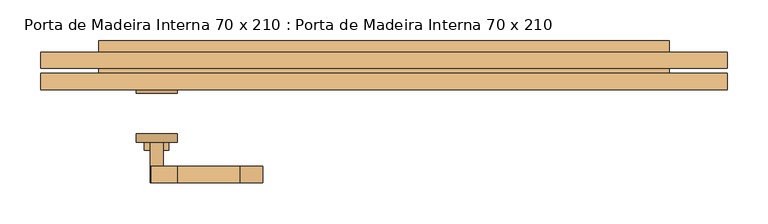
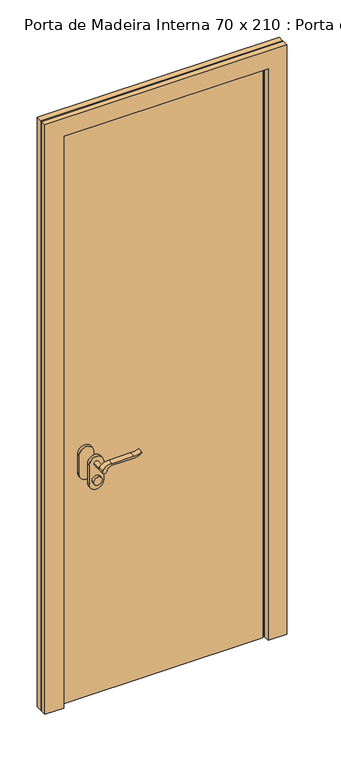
"""IFC4 building model written with IfcOpenShell, lengths in millimetres: door geometry, Porta de Madeira Interna 70 x 210 : Porta de Madeira Interna 70 x 210."""

from ifc_helpers import new_model, si_unit, point, frame, frame_2d, origin, origin_with_axes, place, context, project, spatial, polyline, circle_curve, trimmed, segment, composite_curve, outline, extrude, source, transform, mapped, element, save


def porta_de_madeira_interna_70_x_210_porta_de_madeira_interna_7f2c299e(model_context):
    return source(origin(), model_context, "Body", "SweptSolid", [
        extrude(outline(composite_curve([segment(trimmed(circle_curve(frame_2d((854.4, -279.0)), 15.0), [point((854.4, -264.0))], [point((854.4, -294.0))], False, "CARTESIAN"), True, "CONTINUOUS"), segment(trimmed(circle_curve(frame_2d((854.4, -279.0)), 15.0), [point((854.4, -294.0))], [point((854.4, -264.0))], False, "CARTESIAN"), True, "CONTINUOUS")], self_intersect=False)), frame((0.0, -93.975, 0.0), z_axis=(0.0, 1.0, 0.0), x_axis=(0.0, 0.0, 1.0)), (0.0, 0.0, 1.0), 10.0),
        extrude(outline(composite_curve([segment(trimmed(circle_curve(frame_2d((854.4, -279.0)), 15.0), [point((854.4, -264.0))], [point((854.4, -294.0))], False, "CARTESIAN"), True, "CONTINUOUS"), segment(trimmed(circle_curve(frame_2d((854.4, -279.0)), 15.0), [point((854.4, -294.0))], [point((854.4, -264.0))], False, "CARTESIAN"), True, "CONTINUOUS")], self_intersect=False)), frame((0.0, -13.975, 0.0), z_axis=(0.0, 1.0, 0.0), x_axis=(0.0, 0.0, 1.0)), (0.0, 0.0, 1.0), 10.0),
        extrude(outline(composite_curve([segment(trimmed(circle_curve(frame_2d((914.4, -279.0)), 8.0), [point((919.0523287, -285.5081363))], [point((914.4, -271.0))], False, "CARTESIAN"), True, "CONTINUOUS"), segment(trimmed(circle_curve(frame_2d((909.2738613, -253.6138099)), 18.1261387), [point((914.4, -271.0))], [point((927.4, -253.6138099))], True, "CARTESIAN"), True, "CONTINUOUS"), segment(polyline([(927.4, -253.6138099), (927.4, -177.3564091)]), True, "CONTINUOUS"), segment(trimmed(circle_curve(frame_2d((986.6709207, -180.9396612)), 59.3791355), [point((927.4, -177.3564091))], [point((936.6135558, -149.0))], False, "CARTESIAN"), True, "CONTINUOUS"), segment(polyline([(936.6135558, -149.0), (939.4, -149.0)]), True, "CONTINUOUS"), segment(trimmed(circle_curve(frame_2d((1017.6850638, -177.4227909)), 83.2850902), [point((939.4, -149.0))], [point((934.4, -177.3564091))], True, "CARTESIAN"), True, "CONTINUOUS"), segment(polyline([(934.4, -177.3564091), (934.4, -253.6325667)]), True, "CONTINUOUS"), segment(trimmed(circle_curve(frame_2d((897.1555521, -255.3324871)), 37.2832219), [point((934.4, -253.6325667))], [point((919.0523287, -285.5081363))], False, "CARTESIAN"), True, "CONTINUOUS")], self_intersect=False)), frame((0.0, -133.975, 0.0), z_axis=(0.0, 1.0, 0.0), x_axis=(0.0, 0.0, 1.0)), (0.0, 0.0, 1.0), 20.0),
        extrude(outline(composite_curve([segment(trimmed(circle_curve(frame_2d((909.2738682, -253.6138122)), 18.1261318), [point((914.3999903, -271.0))], [point((927.4, -253.6138122))], True, "CARTESIAN"), True, "CONTINUOUS"), segment(polyline([(927.4, -253.6138122), (927.4, -177.3564091)]), True, "CONTINUOUS"), segment(trimmed(circle_curve(frame_2d((986.6709207, -180.9396612)), 59.3791355), [point((927.4, -177.3564091))], [point((936.6135558, -149.0))], False, "CARTESIAN"), True, "CONTINUOUS"), segment(polyline([(936.6135558, -149.0), (939.4, -149.0)]), True, "CONTINUOUS"), segment(trimmed(circle_curve(frame_2d((1017.6850638, -177.4227909)), 83.2850902), [point((939.4, -149.0))], [point((934.4, -177.3564091))], True, "CARTESIAN"), True, "CONTINUOUS"), segment(polyline([(934.4, -177.3564091), (934.4, -253.6325667)]), True, "CONTINUOUS"), segment(trimmed(circle_curve(frame_2d((897.1555521, -255.3324871)), 37.2832219), [point((934.4, -253.6325667))], [point((919.0523287, -285.5081363))], False, "CARTESIAN"), True, "CONTINUOUS"), segment(trimmed(circle_curve(frame_2d((914.4, -279.0)), 8.0), [point((919.0523287, -285.5081363))], [point((914.3999903, -271.0))], False, "CARTESIAN"), True, "CONTINUOUS")], self_intersect=False)), frame((0.0, 16.025, 0.0), z_axis=(0.0, 1.0, 0.0), x_axis=(0.0, 0.0, 1.0)), (0.0, 0.0, 1.0), 20.0),
        extrude(outline(composite_curve([segment(trimmed(circle_curve(frame_2d((914.4, -279.0)), 8.0), [point((914.4, -271.0))], [point((914.4, -287.0))], False, "CARTESIAN"), True, "CONTINUOUS"), segment(trimmed(circle_curve(frame_2d((914.4, -279.0)), 8.0), [point((914.4, -287.0))], [point((914.4, -271.0))], False, "CARTESIAN"), True, "CONTINUOUS")], self_intersect=False)), frame((0.0, -113.975, 0.0), z_axis=(0.0, 1.0, 0.0), x_axis=(0.0, 0.0, 1.0)), (0.0, 0.0, 1.0), 30.0),
        extrude(outline(composite_curve([segment(trimmed(circle_curve(frame_2d((914.4, -279.0)), 8.0), [point((914.4, -271.0))], [point((914.4, -287.0))], False, "CARTESIAN"), True, "CONTINUOUS"), segment(trimmed(circle_curve(frame_2d((914.4, -279.0)), 8.0), [point((914.4, -287.0))], [point((914.4, -271.0))], False, "CARTESIAN"), True, "CONTINUOUS")], self_intersect=False)), frame((0.0, -13.975, 0.0), z_axis=(0.0, 1.0, 0.0), x_axis=(0.0, 0.0, 1.0)), (0.0, 0.0, 1.0), 30.0),
        extrude(outline(composite_curve([segment(trimmed(circle_curve(frame_2d((844.4, -279.0)), 25.0), [point((844.4, -304.0))], [point((844.4, -254.0))], False, "CARTESIAN"), True, "CONTINUOUS"), segment(polyline([(844.4, -254.0), (914.4, -254.0)]), True, "CONTINUOUS"), segment(trimmed(circle_curve(frame_2d((914.4, -279.0)), 25.0), [point((914.4, -254.0))], [point((914.4, -304.0))], False, "CARTESIAN"), True, "CONTINUOUS"), segment(polyline([(914.4, -304.0), (844.4, -304.0)]), True, "CONTINUOUS")], self_intersect=False)), frame((0.0, -83.975, 0.0), z_axis=(0.0, 1.0, 0.0), x_axis=(0.0, 0.0, 1.0)), (0.0, 0.0, 1.0), 10.0),
        extrude(outline(composite_curve([segment(trimmed(circle_curve(frame_2d((844.4, -279.0)), 25.0), [point((844.4, -304.0))], [point((844.4, -254.0))], False, "CARTESIAN"), True, "CONTINUOUS"), segment(polyline([(844.4, -254.0), (914.4, -254.0)]), True, "CONTINUOUS"), segment(trimmed(circle_curve(frame_2d((914.4, -279.0)), 25.0), [point((914.4, -254.0))], [point((914.4, -304.0))], False, "CARTESIAN"), True, "CONTINUOUS"), segment(polyline([(914.4, -304.0), (844.4, -304.0)]), True, "CONTINUOUS")], self_intersect=False)), frame((0.0, -23.975, 0.0), z_axis=(0.0, 1.0, 0.0), x_axis=(0.0, 0.0, 1.0)), (0.0, 0.0, 1.0), 10.0),
        extrude(outline(polyline([(350.0, 40.175), (350.0, 0.175), (-350.0, 0.175), (-350.0, 40.175), (350.0, 40.175)])), origin_with_axes(), (0.0, 0.0, 1.0), 2100.0),
        extrude(outline(polyline([(0.0, 421.35), (2171.35, 421.35), (2171.35, -421.35), (0.0, -421.35), (0.0, -356.35), (2106.35, -356.35), (2106.35, 356.35), (0.0, 356.35), (0.0, 421.35)])), frame((0.0, 6.175, 0.0), z_axis=(0.0, 1.0, 0.0), x_axis=(0.0, 0.0, 1.0)), (0.0, 0.0, 1.0), 20.0),
        extrude(outline(polyline([(0.0, 421.35), (2171.35, 421.35), (2171.35, -421.35), (0.0, -421.35), (0.0, -356.35), (2106.35, -356.35), (2106.35, 356.35), (0.0, 356.35), (0.0, 421.35)])), frame((0.0, -19.825, 0.0), z_axis=(0.0, 1.0, 0.0), x_axis=(0.0, 0.0, 1.0)), (0.0, 0.0, 1.0), 20.0),
    ])


if __name__ == "__main__":
    model = new_model("IFC4")
    model_context = context("Model", 3, world=origin())
    ifc_project = project(units=[si_unit("LENGTHUNIT", "METRE", prefix="MILLI")], contexts=[model_context])
    site = spatial("IfcSite", under=ifc_project)
    building = spatial("IfcBuilding", under=site)
    placement = place(None, origin())
    porta_de_madeira_interna_70_x_210_porta_de_madeira_interna_shape = porta_de_madeira_interna_70_x_210_porta_de_madeira_interna_7f2c299e(model_context)
    element("IfcDoor", 1, ObjectType="Porta de Madeira Interna 70 x 210 : Porta de Madeira Interna 70 x 210", at=placement, inside=building, context=model_context, shape_type="MappedRepresentation", body=[
        mapped(porta_de_madeira_interna_70_x_210_porta_de_madeira_interna_shape, transform((0.0, 0.0, 0.0), x_axis=(1.0, 0.0, 0.0), y_axis=(0.0, 1.0, 0.0), z_axis=(0.0, 0.0, 1.0))),
    ])
    save(model, "model.ifc")
